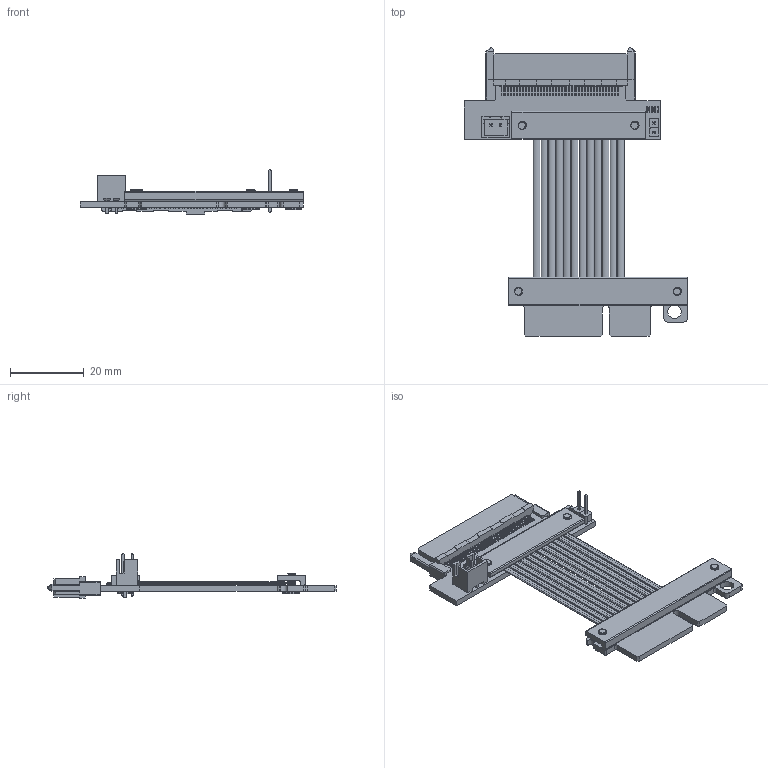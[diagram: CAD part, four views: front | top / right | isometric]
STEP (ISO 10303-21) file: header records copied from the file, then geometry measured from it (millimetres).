
FILE_DESCRIPTION(('Open CASCADE Model'),'2;1');
FILE_NAME('Open CASCADE Shape Model','2025-12-24T11:38:10',('Author'),( 'Open CASCADE'),'Open CASCADE STEP processor 7.5','Open CASCADE 7.5' ,'Unknown');
FILE_SCHEMA(('AUTOMOTIVE_DESIGN { 1 0 10303 214 1 1 1 1 }'));
Length unit declared in the file: millimetre
Products named in the file (154): PCB; Board; Open CASCADE STEP translator 7.5 1.1.1; R6; 0603_RES; Capsule; Encapsulation; TopCover; R5; D2; LED AP1608; CN2; JST 2pin; CN3; BPSC-02; 1; Pino; Base; 2; Pino001; Base001; CN1; 68F-SS10-0115-00.step; Free-Models; SFPLAM300057_3D 24P 20250423; M2 H=5mm 20220810_RGB4408131; K2S 20221109; K1S-A 20221109
Assembly tree (285 placements, depth 5):
  PCB
    Board
      Open CASCADE STEP translator 7.5 1.1.1
    R6
      0603_RES
        Capsule
        Encapsulation  x2
        TopCover
    R5
      0603_RES
        Capsule
        Encapsulation  x2
        TopCover
    D2
      LED AP1608
    CN2
      JST 2pin
    CN3
      BPSC-02
        1
          Pino
          Base
        2
          Pino001
          Base001
    CN1
      68F-SS10-0115-00.step  x2
      68F-SS10-0115-00.step
    Free-Models
      SFPLAM300057_3D 24P 20250423  x2
      SFPLAM300057_3D 24P 20250423  x2
      SFPLAM300057_3D 24P 20250423  x2
      SFPLAM300057_3D 24P 20250423  x2
      SFPLAM300057_3D 24P 20250423  x2
      SFPLAM300057_3D 24P 20250423  x2
      SFPLAM300057_3D 24P 20250423  x2
      SFPLAM300057_3D 24P 20250423  x2
      SFPLAM300057_3D 24P 20250423  x2
      SFPLAM300057_3D 24P 20250423  x2
      SFPLAM300057_3D 24P 20250423  x2
      SFPLAM300057_3D 24P 20250423  x2
      SFPLAM300057_3D 24P 20250423  x2
      SFPLAM300057_3D 24P 20250423  x2
      SFPLAM300057_3D 24P 20250423  x2
      SFPLAM300057_3D 24P 20250423  x2
      SFPLAM300057_3D 24P 20250423  x2
      SFPLAM300057_3D 24P 20250423  x2
      SFPLAM300057_3D 24P 20250423  x2
      SFPLAM300057_3D 24P 20250423  x2
      SFPLAM300057_3D 24P 20250423  x2
      SFPLAM300057_3D 24P 20250423  x2
      SFPLAM300057_3D 24P 20250423  x2
      SFPLAM300057_3D 24P 20250423  x2
      SFPLAM300057_3D 24P 20250423  x2
      SFPLAM300057_3D 24P 20250423  x2
      SFPLAM300057_3D 24P 20250423  x2
      SFPLAM300057_3D 24P 20250423  x2
      SFPLAM300057_3D 24P 20250423  x2
      SFPLAM300057_3D 24P 20250423  x2
      SFPLAM300057_3D 24P 20250423  x2
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Bounding box: 60.35 x 78.13 x 11.92 mm (x, y, z)
Volume: 7002.5 mm3; surface area: 23042.7 mm2
Topology: 280 solids, 280 shells, 7558 faces, 20691 edges, 13606 vertices
Faces by surface type: plane 6340, cylinder 830, bspline 348, extrusion 24, torus 16
Full cylindrical faces by diameter (mm): 0.2 x144, 0.254 x192, 0.63 x48, 1.05 x4, 2.2 x7, 3.7 x1
Entity records: 208882 total; most frequent: CARTESIAN_POINT 39581, ORIENTED_EDGE 27366, DIRECTION 23789, EDGE_CURVE 13683, VECTOR 12151, LINE 12139, VERTEX_POINT 9007, AXIS2_PLACEMENT_3D 5819
